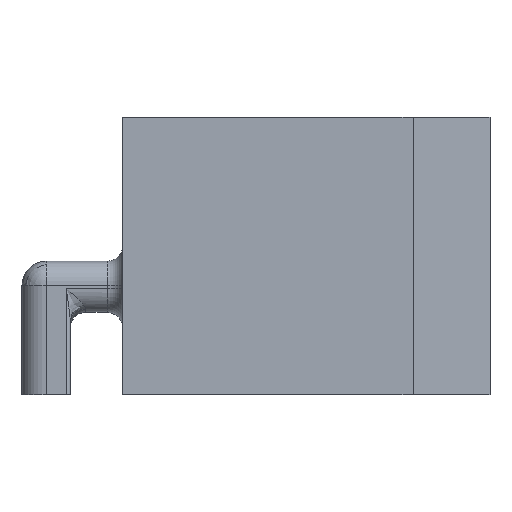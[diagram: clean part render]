
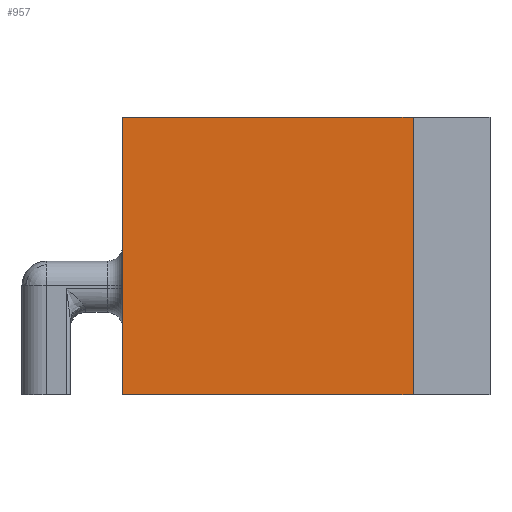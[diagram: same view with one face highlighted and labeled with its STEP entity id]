
A CAD part, left-side view. The second image highlights one B-rep face of the part: STEP entity #957.
In plain terms, the highlighted planar face has unit normal (-1, 0, 0).
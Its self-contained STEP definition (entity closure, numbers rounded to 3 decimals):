
#41=PLANE('',#1057);
#64=LINE('',#1632,#158);
#113=LINE('',#1762,#207);
#123=LINE('',#1781,#217);
#137=LINE('',#1807,#231);
#158=VECTOR('',#1140,10.);
#207=VECTOR('',#1275,10.);
#217=VECTOR('',#1289,10.);
#231=VECTOR('',#1311,10.);
#305=FACE_OUTER_BOUND('',#363,.T.);
#363=EDGE_LOOP('',(#863,#864,#865,#866));
#440=VERTEX_POINT('',#1628);
#442=VERTEX_POINT('',#1631);
#480=VERTEX_POINT('',#1761);
#487=VERTEX_POINT('',#1779);
#538=EDGE_CURVE('',#440,#442,#64,.T.);
#603=EDGE_CURVE('',#442,#480,#113,.T.);
#613=EDGE_CURVE('',#487,#440,#123,.T.);
#627=EDGE_CURVE('',#487,#480,#137,.T.);
#863=ORIENTED_EDGE('',*,*,#613,.F.);
#864=ORIENTED_EDGE('',*,*,#627,.T.);
#865=ORIENTED_EDGE('',*,*,#603,.F.);
#866=ORIENTED_EDGE('',*,*,#538,.F.);
#957=ADVANCED_FACE('',(#305),#41,.T.);
#1057=AXIS2_PLACEMENT_3D('',#1808,#1312,#1313);
#1140=DIRECTION('',(0.,0.,1.));
#1275=DIRECTION('',(0.,-1.,0.));
#1289=DIRECTION('',(0.,1.,0.));
#1311=DIRECTION('',(0.,0.,1.));
#1312=DIRECTION('center_axis',(-1.,0.,0.));
#1313=DIRECTION('ref_axis',(0.,-1.,0.));
#1628=CARTESIAN_POINT('',(-25.2,18.6,0.));
#1631=CARTESIAN_POINT('',(-25.2,18.6,27.));
#1632=CARTESIAN_POINT('',(-25.2,18.6,0.));
#1761=CARTESIAN_POINT('',(-25.2,-9.657,27.));
#1762=CARTESIAN_POINT('',(-25.2,9.657,27.));
#1779=CARTESIAN_POINT('',(-25.2,-9.657,0.));
#1781=CARTESIAN_POINT('',(-25.2,9.657,0.));
#1807=CARTESIAN_POINT('',(-25.2,-9.657,0.));
#1808=CARTESIAN_POINT('Origin',(-25.2,18.6,0.));
